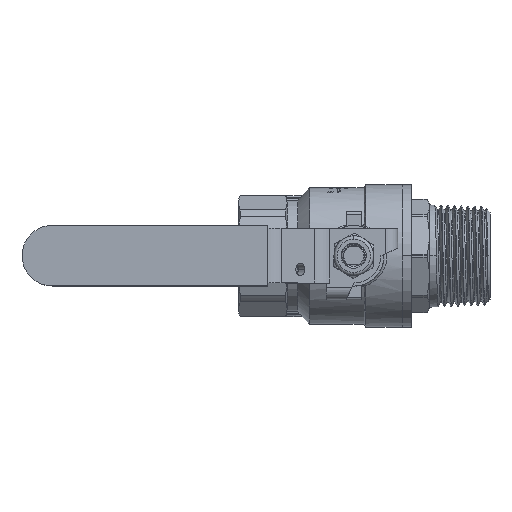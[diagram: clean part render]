
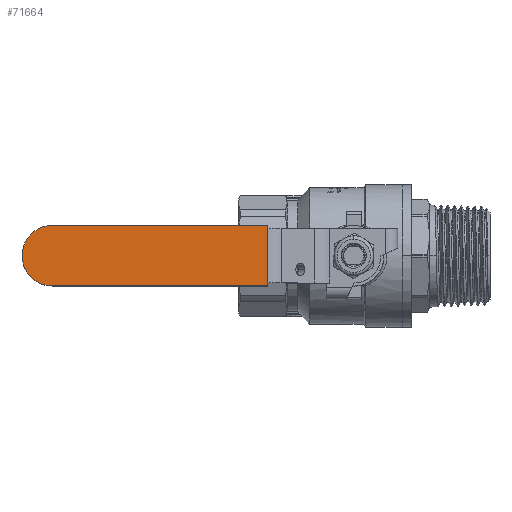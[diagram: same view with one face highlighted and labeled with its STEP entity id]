
A CAD part, top view. The second image highlights one B-rep face of the part: STEP entity #71664.
In plain terms, the highlighted planar face has unit normal (0, 0, 1).
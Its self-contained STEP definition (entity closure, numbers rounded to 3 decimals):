
#69101 = PLANE('',#69102);
#69102 = AXIS2_PLACEMENT_3D('',#69103,#69104,#69105);
#69103 = CARTESIAN_POINT('',(-28.314,-11.322,
    56.421));
#69104 = DIRECTION('',(-1.,0.,0.));
#69105 = DIRECTION('',(0.,-1.,0.));
#71434 = VERTEX_POINT('',#71435);
#71435 = CARTESIAN_POINT('',(-28.314,-31.322,
    56.421));
#71451 = PLANE('',#71452);
#71452 = AXIS2_PLACEMENT_3D('',#71453,#71454,#71455);
#71453 = CARTESIAN_POINT('',(0.,-31.322,
    37.421));
#71454 = DIRECTION('',(0.,1.,0.));
#71455 = DIRECTION('',(-1.,0.,0.));
#71492 = VERTEX_POINT('',#71493);
#71493 = CARTESIAN_POINT('',(-28.314,-11.322,
    56.421));
#71507 = PLANE('',#71508);
#71508 = AXIS2_PLACEMENT_3D('',#71509,#71510,#71511);
#71509 = CARTESIAN_POINT('',(0.,-11.322,
    37.421));
#71510 = DIRECTION('',(0.,1.,0.));
#71511 = DIRECTION('',(-1.,0.,0.));
#71519 = EDGE_CURVE('',#71492,#71434,#71520,.T.);
#71520 = SURFACE_CURVE('',#71521,(#71525,#71532),.PCURVE_S1.);
#71521 = LINE('',#71522,#71523);
#71522 = CARTESIAN_POINT('',(-28.314,-11.322,
    56.421));
#71523 = VECTOR('',#71524,1.);
#71524 = DIRECTION('',(0.,-1.,0.));
#71525 = PCURVE('',#69101,#71526);
#71526 = DEFINITIONAL_REPRESENTATION('',(#71527),#71531);
#71527 = LINE('',#71528,#71529);
#71528 = CARTESIAN_POINT('',(0.,0.));
#71529 = VECTOR('',#71530,1.);
#71530 = DIRECTION('',(1.,0.));
#71531 = ( GEOMETRIC_REPRESENTATION_CONTEXT(2) 
PARAMETRIC_REPRESENTATION_CONTEXT() REPRESENTATION_CONTEXT('2D SPACE',''
  ) );
#71532 = PCURVE('',#71533,#71538);
#71533 = PLANE('',#71534);
#71534 = AXIS2_PLACEMENT_3D('',#71535,#71536,#71537);
#71535 = CARTESIAN_POINT('',(-28.314,-11.322,
    56.421));
#71536 = DIRECTION('',(0.,0.,-1.));
#71537 = DIRECTION('',(0.,-1.,0.));
#71538 = DEFINITIONAL_REPRESENTATION('',(#71539),#71543);
#71539 = LINE('',#71540,#71541);
#71540 = CARTESIAN_POINT('',(0.,-0.));
#71541 = VECTOR('',#71542,1.);
#71542 = DIRECTION('',(1.,0.));
#71543 = ( GEOMETRIC_REPRESENTATION_CONTEXT(2) 
PARAMETRIC_REPRESENTATION_CONTEXT() REPRESENTATION_CONTEXT('2D SPACE',''
  ) );
#71598 = CYLINDRICAL_SURFACE('',#71599,10.);
#71599 = AXIS2_PLACEMENT_3D('',#71600,#71601,#71602);
#71600 = CARTESIAN_POINT('',(-99.5,-21.322,56.421));
#71601 = DIRECTION('',(0.,0.,1.));
#71602 = DIRECTION('',(0.,1.,0.));
#71631 = CYLINDRICAL_SURFACE('',#71632,10.);
#71632 = AXIS2_PLACEMENT_3D('',#71633,#71634,#71635);
#71633 = CARTESIAN_POINT('',(-99.5,-21.322,37.421));
#71634 = DIRECTION('',(0.,0.,-1.));
#71635 = DIRECTION('',(0.,-1.,0.));
#71664 = ADVANCED_FACE('',(#71665),#71533,.F.);
#71665 = FACE_BOUND('',#71666,.T.);
#71666 = EDGE_LOOP('',(#71667,#71697,#71725,#71746,#71747));
#71667 = ORIENTED_EDGE('',*,*,#71668,.T.);
#71668 = EDGE_CURVE('',#71669,#71671,#71673,.T.);
#71669 = VERTEX_POINT('',#71670);
#71670 = CARTESIAN_POINT('',(-99.5,-11.322,56.421));
#71671 = VERTEX_POINT('',#71672);
#71672 = CARTESIAN_POINT('',(-109.5,-21.322,56.421));
#71673 = SURFACE_CURVE('',#71674,(#71679,#71690),.PCURVE_S1.);
#71674 = CIRCLE('',#71675,10.);
#71675 = AXIS2_PLACEMENT_3D('',#71676,#71677,#71678);
#71676 = CARTESIAN_POINT('',(-99.5,-21.322,56.421));
#71677 = DIRECTION('',(0.,0.,1.));
#71678 = DIRECTION('',(0.,-1.,0.));
#71679 = PCURVE('',#71533,#71680);
#71680 = DEFINITIONAL_REPRESENTATION('',(#71681),#71689);
#71681 = ( BOUNDED_CURVE() B_SPLINE_CURVE(2,(#71682,#71683,#71684,#71685
    ,#71686,#71687,#71688),.UNSPECIFIED.,.T.,.F.) 
B_SPLINE_CURVE_WITH_KNOTS((1,2,2,2,2,1),(-2.094,0.,
    2.094,4.189,6.283,8.378),
.UNSPECIFIED.) CURVE() GEOMETRIC_REPRESENTATION_ITEM() 
RATIONAL_B_SPLINE_CURVE((1.,0.5,1.,0.5,1.,0.5,1.)) REPRESENTATION_ITEM(
  '') );
#71682 = CARTESIAN_POINT('',(20.,71.186));
#71683 = CARTESIAN_POINT('',(20.,53.866));
#71684 = CARTESIAN_POINT('',(5.,62.526));
#71685 = CARTESIAN_POINT('',(-10.,71.186));
#71686 = CARTESIAN_POINT('',(5.,79.847));
#71687 = CARTESIAN_POINT('',(20.,88.507));
#71688 = CARTESIAN_POINT('',(20.,71.186));
#71689 = ( GEOMETRIC_REPRESENTATION_CONTEXT(2) 
PARAMETRIC_REPRESENTATION_CONTEXT() REPRESENTATION_CONTEXT('2D SPACE',''
  ) );
#71690 = PCURVE('',#71631,#71691);
#71691 = DEFINITIONAL_REPRESENTATION('',(#71692),#71696);
#71692 = LINE('',#71693,#71694);
#71693 = CARTESIAN_POINT('',(6.283,-19.));
#71694 = VECTOR('',#71695,1.);
#71695 = DIRECTION('',(-1.,0.));
#71696 = ( GEOMETRIC_REPRESENTATION_CONTEXT(2) 
PARAMETRIC_REPRESENTATION_CONTEXT() REPRESENTATION_CONTEXT('2D SPACE',''
  ) );
#71697 = ORIENTED_EDGE('',*,*,#71698,.T.);
#71698 = EDGE_CURVE('',#71671,#71699,#71701,.T.);
#71699 = VERTEX_POINT('',#71700);
#71700 = CARTESIAN_POINT('',(-99.5,-31.322,56.421));
#71701 = SURFACE_CURVE('',#71702,(#71707,#71718),.PCURVE_S1.);
#71702 = CIRCLE('',#71703,10.);
#71703 = AXIS2_PLACEMENT_3D('',#71704,#71705,#71706);
#71704 = CARTESIAN_POINT('',(-99.5,-21.322,56.421));
#71705 = DIRECTION('',(0.,0.,1.));
#71706 = DIRECTION('',(0.,-1.,0.));
#71707 = PCURVE('',#71533,#71708);
#71708 = DEFINITIONAL_REPRESENTATION('',(#71709),#71717);
#71709 = ( BOUNDED_CURVE() B_SPLINE_CURVE(2,(#71710,#71711,#71712,#71713
    ,#71714,#71715,#71716),.UNSPECIFIED.,.T.,.F.) 
B_SPLINE_CURVE_WITH_KNOTS((1,2,2,2,2,1),(-2.094,0.,
    2.094,4.189,6.283,8.378),
.UNSPECIFIED.) CURVE() GEOMETRIC_REPRESENTATION_ITEM() 
RATIONAL_B_SPLINE_CURVE((1.,0.5,1.,0.5,1.,0.5,1.)) REPRESENTATION_ITEM(
  '') );
#71710 = CARTESIAN_POINT('',(20.,71.186));
#71711 = CARTESIAN_POINT('',(20.,53.866));
#71712 = CARTESIAN_POINT('',(5.,62.526));
#71713 = CARTESIAN_POINT('',(-10.,71.186));
#71714 = CARTESIAN_POINT('',(5.,79.847));
#71715 = CARTESIAN_POINT('',(20.,88.507));
#71716 = CARTESIAN_POINT('',(20.,71.186));
#71717 = ( GEOMETRIC_REPRESENTATION_CONTEXT(2) 
PARAMETRIC_REPRESENTATION_CONTEXT() REPRESENTATION_CONTEXT('2D SPACE',''
  ) );
#71718 = PCURVE('',#71598,#71719);
#71719 = DEFINITIONAL_REPRESENTATION('',(#71720),#71724);
#71720 = LINE('',#71721,#71722);
#71721 = CARTESIAN_POINT('',(-3.142,0.));
#71722 = VECTOR('',#71723,1.);
#71723 = DIRECTION('',(1.,0.));
#71724 = ( GEOMETRIC_REPRESENTATION_CONTEXT(2) 
PARAMETRIC_REPRESENTATION_CONTEXT() REPRESENTATION_CONTEXT('2D SPACE',''
  ) );
#71725 = ORIENTED_EDGE('',*,*,#71726,.T.);
#71726 = EDGE_CURVE('',#71699,#71434,#71727,.T.);
#71727 = SURFACE_CURVE('',#71728,(#71732,#71739),.PCURVE_S1.);
#71728 = LINE('',#71729,#71730);
#71729 = CARTESIAN_POINT('',(-28.314,-31.322,
    56.421));
#71730 = VECTOR('',#71731,1.);
#71731 = DIRECTION('',(1.,0.,0.));
#71732 = PCURVE('',#71533,#71733);
#71733 = DEFINITIONAL_REPRESENTATION('',(#71734),#71738);
#71734 = LINE('',#71735,#71736);
#71735 = CARTESIAN_POINT('',(20.,0.));
#71736 = VECTOR('',#71737,1.);
#71737 = DIRECTION('',(0.,-1.));
#71738 = ( GEOMETRIC_REPRESENTATION_CONTEXT(2) 
PARAMETRIC_REPRESENTATION_CONTEXT() REPRESENTATION_CONTEXT('2D SPACE',''
  ) );
#71739 = PCURVE('',#71451,#71740);
#71740 = DEFINITIONAL_REPRESENTATION('',(#71741),#71745);
#71741 = LINE('',#71742,#71743);
#71742 = CARTESIAN_POINT('',(28.314,19.));
#71743 = VECTOR('',#71744,1.);
#71744 = DIRECTION('',(-1.,0.));
#71745 = ( GEOMETRIC_REPRESENTATION_CONTEXT(2) 
PARAMETRIC_REPRESENTATION_CONTEXT() REPRESENTATION_CONTEXT('2D SPACE',''
  ) );
#71746 = ORIENTED_EDGE('',*,*,#71519,.F.);
#71747 = ORIENTED_EDGE('',*,*,#71748,.F.);
#71748 = EDGE_CURVE('',#71669,#71492,#71749,.T.);
#71749 = SURFACE_CURVE('',#71750,(#71754,#71761),.PCURVE_S1.);
#71750 = LINE('',#71751,#71752);
#71751 = CARTESIAN_POINT('',(-28.314,-11.322,
    56.421));
#71752 = VECTOR('',#71753,1.);
#71753 = DIRECTION('',(1.,0.,0.));
#71754 = PCURVE('',#71533,#71755);
#71755 = DEFINITIONAL_REPRESENTATION('',(#71756),#71760);
#71756 = LINE('',#71757,#71758);
#71757 = CARTESIAN_POINT('',(0.,-0.));
#71758 = VECTOR('',#71759,1.);
#71759 = DIRECTION('',(0.,-1.));
#71760 = ( GEOMETRIC_REPRESENTATION_CONTEXT(2) 
PARAMETRIC_REPRESENTATION_CONTEXT() REPRESENTATION_CONTEXT('2D SPACE',''
  ) );
#71761 = PCURVE('',#71507,#71762);
#71762 = DEFINITIONAL_REPRESENTATION('',(#71763),#71767);
#71763 = LINE('',#71764,#71765);
#71764 = CARTESIAN_POINT('',(28.314,19.));
#71765 = VECTOR('',#71766,1.);
#71766 = DIRECTION('',(-1.,0.));
#71767 = ( GEOMETRIC_REPRESENTATION_CONTEXT(2) 
PARAMETRIC_REPRESENTATION_CONTEXT() REPRESENTATION_CONTEXT('2D SPACE',''
  ) );
